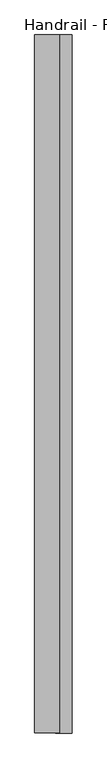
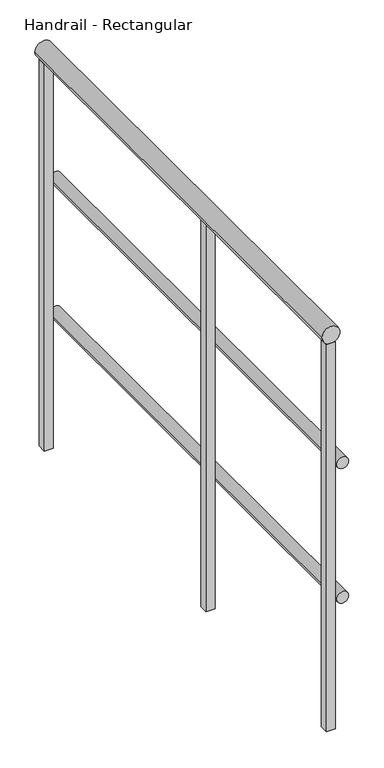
"""IFC4 building model written with IfcOpenShell, lengths in millimetres: railing geometry, Handrail - Rectangular."""

from ifc_helpers import new_model, si_unit, point, frame, frame_2d, origin, place, context, project, spatial, polyline, circle_curve, trimmed, segment, composite_curve, outline, extrude, source, transform, mapped, element, save


def handrail_rectangular_54a3796f(model_context):
    return source(origin(), model_context, "Body", "SweptSolid", [
        extrude(outline(composite_curve([segment(trimmed(circle_curve(frame_2d((3644.9, 2322.5410437)), 12.7), [point((3644.9, 2335.2410437))], [point((3644.9, 2309.8410437))], False, "CARTESIAN"), True, "CONTINUOUS"), segment(trimmed(circle_curve(frame_2d((3644.9, 2322.5410437)), 12.7), [point((3644.9, 2309.8410437))], [point((3644.9, 2335.2410437))], False, "CARTESIAN"), True, "CONTINUOUS")], self_intersect=False)), frame((0.0, 6864.8316867, 0.0), z_axis=(0.0, 1.0, 0.0), x_axis=(0.0, 0.0, 1.0)), (0.0, 0.0, 1.0), 1066.8),
        extrude(outline(composite_curve([segment(trimmed(circle_curve(frame_2d((3340.1, 2322.5410437)), 12.7), [point((3340.1, 2335.2410437))], [point((3340.1, 2309.8410437))], False, "CARTESIAN"), True, "CONTINUOUS"), segment(trimmed(circle_curve(frame_2d((3340.1, 2322.5410437)), 12.7), [point((3340.1, 2309.8410437))], [point((3340.1, 2335.2410437))], False, "CARTESIAN"), True, "CONTINUOUS")], self_intersect=False)), frame((0.0, 6864.8316867, 0.0), z_axis=(0.0, 1.0, 0.0), x_axis=(0.0, 0.0, 1.0)), (0.0, 0.0, 1.0), 1066.8),
        extrude(outline(composite_curve([segment(trimmed(circle_curve(frame_2d((3943.35, 2297.1410437)), 19.05), [point((3943.35, 2316.1910437))], [point((3943.35, 2278.0910437))], False, "CARTESIAN"), True, "CONTINUOUS"), segment(trimmed(circle_curve(frame_2d((3943.35, 2297.1410437)), 19.05), [point((3943.35, 2278.0910437))], [point((3943.35, 2316.1910437))], False, "CARTESIAN"), True, "CONTINUOUS")], self_intersect=False)), frame((0.0, 6864.8316867, 0.0), z_axis=(0.0, 1.0, 0.0), x_axis=(0.0, 0.0, 1.0)), (0.0, 0.0, 1.0), 1066.8),
        extrude(outline(polyline([(2287.6160437, 7331.5566867), (2306.6660437, 7331.5566867), (2306.6660437, 7312.5066867), (2287.6160437, 7312.5066867), (2287.6160437, 7331.5566867)])), frame((0.0, 0.0, 3048.0), z_axis=(0.0, 0.0, 1.0), x_axis=(1.0, 0.0, 0.0)), (0.0, 0.0, 1.0), 876.3),
        extrude(outline(polyline([(2287.6160437, 6883.8816867), (2306.6660437, 6883.8816867), (2306.6660437, 6864.8316867), (2287.6160437, 6864.8316867), (2287.6160437, 6883.8816867)])), frame((0.0, 0.0, 3048.0), z_axis=(0.0, 0.0, 1.0), x_axis=(1.0, 0.0, 0.0)), (0.0, 0.0, 1.0), 876.3),
        extrude(outline(polyline([(2287.6160437, 7931.6316867), (2306.6660437, 7931.6316867), (2306.6660437, 7912.5816867), (2287.6160437, 7912.5816867), (2287.6160437, 7931.6316867)])), frame((0.0, 0.0, 3048.0), z_axis=(0.0, 0.0, 1.0), x_axis=(1.0, 0.0, 0.0)), (0.0, 0.0, 1.0), 876.3),
    ])


if __name__ == "__main__":
    model = new_model("IFC4")
    model_context = context("Model", 3, world=origin())
    ifc_project = project(units=[si_unit("LENGTHUNIT", "METRE", prefix="MILLI")], contexts=[model_context])
    site = spatial("IfcSite", under=ifc_project)
    building = spatial("IfcBuilding", under=site)
    placement = place(None, origin())
    handrail_rectangular_shape = handrail_rectangular_54a3796f(model_context)
    element("IfcRailing", 1, ObjectType="Handrail - Rectangular", at=placement, inside=building, context=model_context, shape_type="MappedRepresentation", body=[
        mapped(handrail_rectangular_shape, transform((0.0, 0.0, 0.0), x_axis=(1.0, 0.0, 0.0), y_axis=(0.0, 1.0, 0.0), z_axis=(0.0, 0.0, 1.0))),
    ])
    save(model, "model.ifc")
